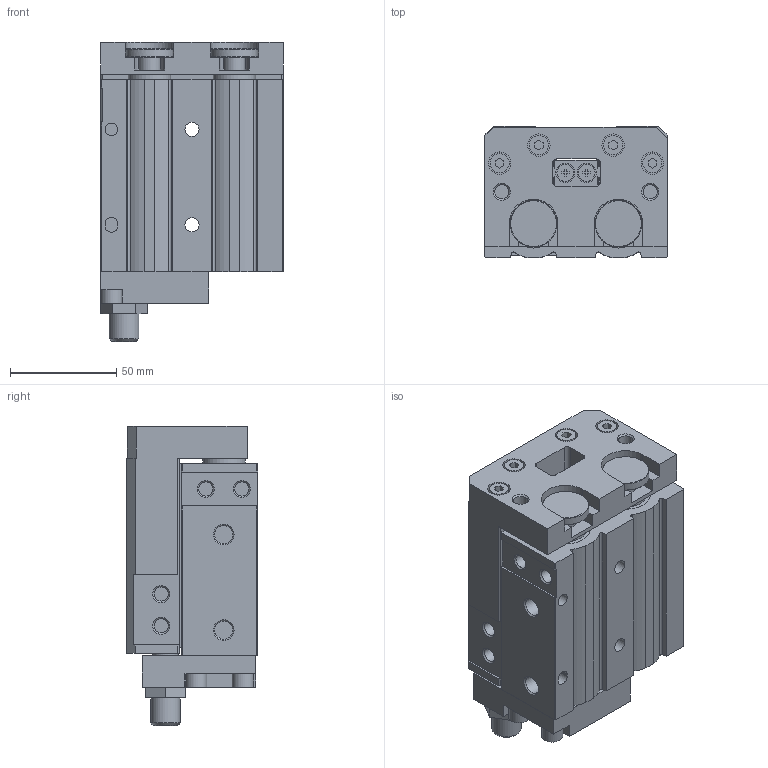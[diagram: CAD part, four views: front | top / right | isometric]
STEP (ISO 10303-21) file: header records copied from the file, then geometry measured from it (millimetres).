
FILE_DESCRIPTION( ( 'STEP AP214' ), '1' );
FILE_NAME( 'C:/Users/EMC02301/Desktop/ELS图纸/ELS25X30-S-AF.stp', '2026-08-05T06:26:00', ( 'License CC BY-ND 4.0' ), ( 'CADENAS' ), ' ', 'PARTsolutions', ' ' );
FILE_SCHEMA( ( 'AUTOMOTIVE_DESIGN { 1 0 10303 214 1 1 1 1 }' ) );
Length unit declared in the file: millimetre
Products named in the file (4): ELS25X30-S-AF(0)(); _ELS25X30-S-AF(HX-07)(HX-07-1)(0-body); _ELS25X30-S-AF(0-rod); _FJ-ELS25-(AF)
Assembly tree (3 placements, depth 2):
  ELS25X30-S-AF(0)()
    _ELS25X30-S-AF(HX-07)(HX-07-1)(0-body)
    _ELS25X30-S-AF(0-rod)
    _FJ-ELS25-(AF)
Bounding box: 86 x 62 x 141 mm (x, y, z)
Volume: 507034.6 mm3; surface area: 118839 mm2
Topology: 3 solids, 3 shells, 525 faces, 1289 edges, 850 vertices
Faces by surface type: plane 382, cylinder 114, cone 29
Full cylindrical faces by diameter (mm): 4.917 x10, 6 x2, 6.647 x8, 6.8 x2, 8 x8, 8.566 x2, 9 x12, 10 x8, 10.5 x5, 12 x7, 14 x1, 20 x2, 22 x2, 23 x2, 25 x4, 26 x2
Entity records: 19033 total; most frequent: CARTESIAN_POINT 2536, DIRECTION 2487, ORIENTED_EDGE 2340, EDGE_CURVE 1170, LINE 911, VECTOR 911, VERTEX_POINT 837, AXIS2_PLACEMENT_3D 788
